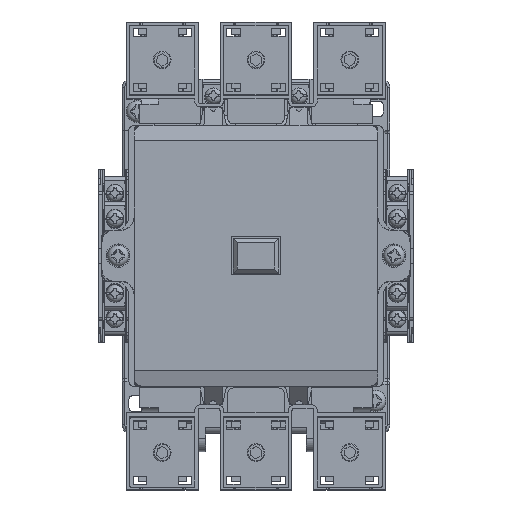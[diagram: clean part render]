
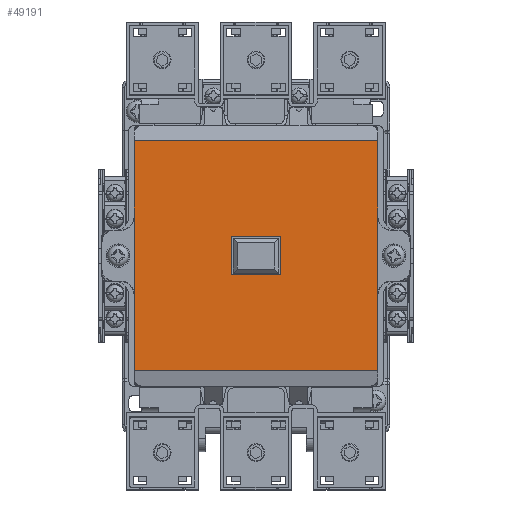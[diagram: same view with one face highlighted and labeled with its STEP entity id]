
A CAD part, top view. The second image highlights one B-rep face of the part: STEP entity #49191.
In plain terms, the highlighted planar face has unit normal (0, 0, 1).
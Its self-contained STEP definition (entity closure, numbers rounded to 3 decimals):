
#765 = LINE ( 'NONE', #19761, #36110 ) ;
#1794 = DIRECTION ( 'NONE',  ( 0., 0., 1. ) ) ;
#2754 = ORIENTED_EDGE ( 'NONE', *, *, #25929, .T. ) ;
#3094 = ORIENTED_EDGE ( 'NONE', *, *, #52613, .T. ) ;
#4875 = LINE ( 'NONE', #41054, #38716 ) ;
#6372 = CARTESIAN_POINT ( 'NONE',  ( 9.15, -7.125, 45.5 ) ) ;
#6426 = LINE ( 'NONE', #56894, #43185 ) ;
#8856 = EDGE_CURVE ( 'NONE', #9890, #50546, #43648, .T. ) ;
#8859 = DIRECTION ( 'NONE',  ( 0., 1., 0. ) ) ;
#9152 = CARTESIAN_POINT ( 'NONE',  ( -9.15, -7.125, 45.5 ) ) ;
#9749 = AXIS2_PLACEMENT_3D ( 'NONE', #29417, #1794, #34049 ) ;
#9889 = EDGE_CURVE ( 'NONE', #50546, #10360, #59375, .T. ) ;
#9890 = VERTEX_POINT ( 'NONE', #6372 ) ;
#10158 = CARTESIAN_POINT ( 'NONE',  ( -9.15, 7.125, 45.5 ) ) ;
#10360 = VERTEX_POINT ( 'NONE', #10158 ) ;
#10702 = DIRECTION ( 'NONE',  ( 0., -1., 0. ) ) ;
#11664 = LINE ( 'NONE', #33336, #45535 ) ;
#12724 = CARTESIAN_POINT ( 'NONE',  ( 9.15, 7.125, 45.5 ) ) ;
#12972 = EDGE_CURVE ( 'NONE', #10360, #33642, #765, .T. ) ;
#13963 = VECTOR ( 'NONE', #46558, 1000. ) ;
#14350 = ORIENTED_EDGE ( 'NONE', *, *, #24787, .F. ) ;
#17124 = VERTEX_POINT ( 'NONE', #55338 ) ;
#19504 = DIRECTION ( 'NONE',  ( 1., 0., 0. ) ) ;
#19611 = DIRECTION ( 'NONE',  ( 0., -1., 0. ) ) ;
#19681 = EDGE_LOOP ( 'NONE', ( #51407, #42974, #24822, #51336 ) ) ;
#19761 = CARTESIAN_POINT ( 'NONE',  ( -9.15, -7.125, 45.5 ) ) ;
#23009 = VERTEX_POINT ( 'NONE', #51926 ) ;
#23618 = CARTESIAN_POINT ( 'NONE',  ( -45.5, 42.9, 45.5 ) ) ;
#24649 = DIRECTION ( 'NONE',  ( 1., 0., 0. ) ) ;
#24787 = EDGE_CURVE ( 'NONE', #52541, #23009, #6426, .T. ) ;
#24822 = ORIENTED_EDGE ( 'NONE', *, *, #8856, .F. ) ;
#25929 = EDGE_CURVE ( 'NONE', #32105, #17124, #41642, .T. ) ;
#29351 = DIRECTION ( 'NONE',  ( -1., 0., 0. ) ) ;
#29417 = CARTESIAN_POINT ( 'NONE',  ( 42.3, 45.5, 45.5 ) ) ;
#31449 = VECTOR ( 'NONE', #58064, 1000. ) ;
#32105 = VERTEX_POINT ( 'NONE', #44830 ) ;
#33336 = CARTESIAN_POINT ( 'NONE',  ( -45.5, -45.5, 45.5 ) ) ;
#33642 = VERTEX_POINT ( 'NONE', #9152 ) ;
#34049 = DIRECTION ( 'NONE',  ( 1., 0., 0. ) ) ;
#36110 = VECTOR ( 'NONE', #10702, 1000. ) ;
#37272 = CARTESIAN_POINT ( 'NONE',  ( 9.15, -7.125, 45.5 ) ) ;
#38438 = LINE ( 'NONE', #37272, #13963 ) ;
#38716 = VECTOR ( 'NONE', #8859, 1000. ) ;
#41054 = CARTESIAN_POINT ( 'NONE',  ( 45.5, -45.5, 45.5 ) ) ;
#41642 = LINE ( 'NONE', #51686, #52439 ) ;
#42673 = EDGE_CURVE ( 'NONE', #17124, #23009, #4875, .T. ) ;
#42845 = CARTESIAN_POINT ( 'NONE',  ( 9.15, 7.125, 45.5 ) ) ;
#42974 = ORIENTED_EDGE ( 'NONE', *, *, #9889, .F. ) ;
#43185 = VECTOR ( 'NONE', #24649, 1000. ) ;
#43648 = LINE ( 'NONE', #58254, #31449 ) ;
#44830 = CARTESIAN_POINT ( 'NONE',  ( -45.5, -42.9, 45.5 ) ) ;
#45535 = VECTOR ( 'NONE', #19611, 1000. ) ;
#46558 = DIRECTION ( 'NONE',  ( 1., 0., 0. ) ) ;
#46781 = FACE_OUTER_BOUND ( 'NONE', #51149, .T. ) ;
#46942 = EDGE_CURVE ( 'NONE', #33642, #9890, #38438, .T. ) ;
#47122 = VECTOR ( 'NONE', #29351, 1000. ) ;
#49191 = ADVANCED_FACE ( 'NONE', ( #59033, #46781 ), #56622, .T. ) ;
#50546 = VERTEX_POINT ( 'NONE', #12724 ) ;
#51149 = EDGE_LOOP ( 'NONE', ( #2754, #57524, #14350, #3094 ) ) ;
#51336 = ORIENTED_EDGE ( 'NONE', *, *, #46942, .F. ) ;
#51407 = ORIENTED_EDGE ( 'NONE', *, *, #12972, .F. ) ;
#51686 = CARTESIAN_POINT ( 'NONE',  ( -45.506, -42.9, 45.5 ) ) ;
#51926 = CARTESIAN_POINT ( 'NONE',  ( 45.5, 42.9, 45.5 ) ) ;
#52439 = VECTOR ( 'NONE', #19504, 1000. ) ;
#52541 = VERTEX_POINT ( 'NONE', #23618 ) ;
#52613 = EDGE_CURVE ( 'NONE', #52541, #32105, #11664, .T. ) ;
#55338 = CARTESIAN_POINT ( 'NONE',  ( 45.5, -42.9, 45.5 ) ) ;
#56622 = PLANE ( 'NONE',  #9749 ) ;
#56894 = CARTESIAN_POINT ( 'NONE',  ( -45.506, 42.9, 45.5 ) ) ;
#57524 = ORIENTED_EDGE ( 'NONE', *, *, #42673, .T. ) ;
#58064 = DIRECTION ( 'NONE',  ( 0., 1., 0. ) ) ;
#58254 = CARTESIAN_POINT ( 'NONE',  ( 9.15, -7.125, 45.5 ) ) ;
#59033 = FACE_BOUND ( 'NONE', #19681, .T. ) ;
#59375 = LINE ( 'NONE', #42845, #47122 ) ;
